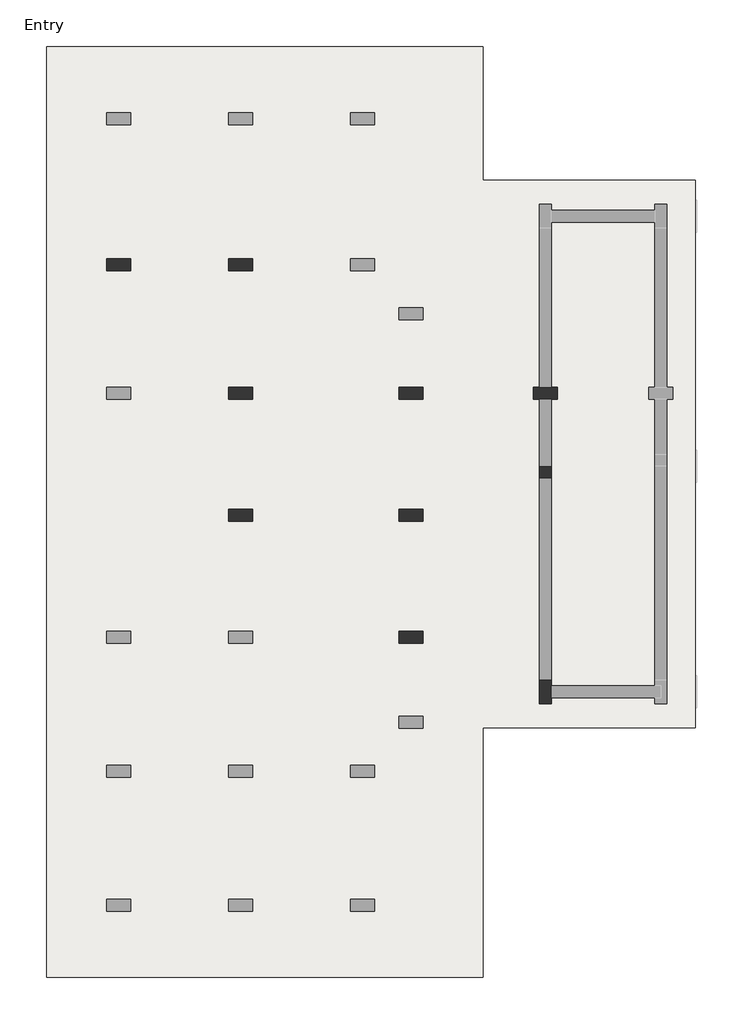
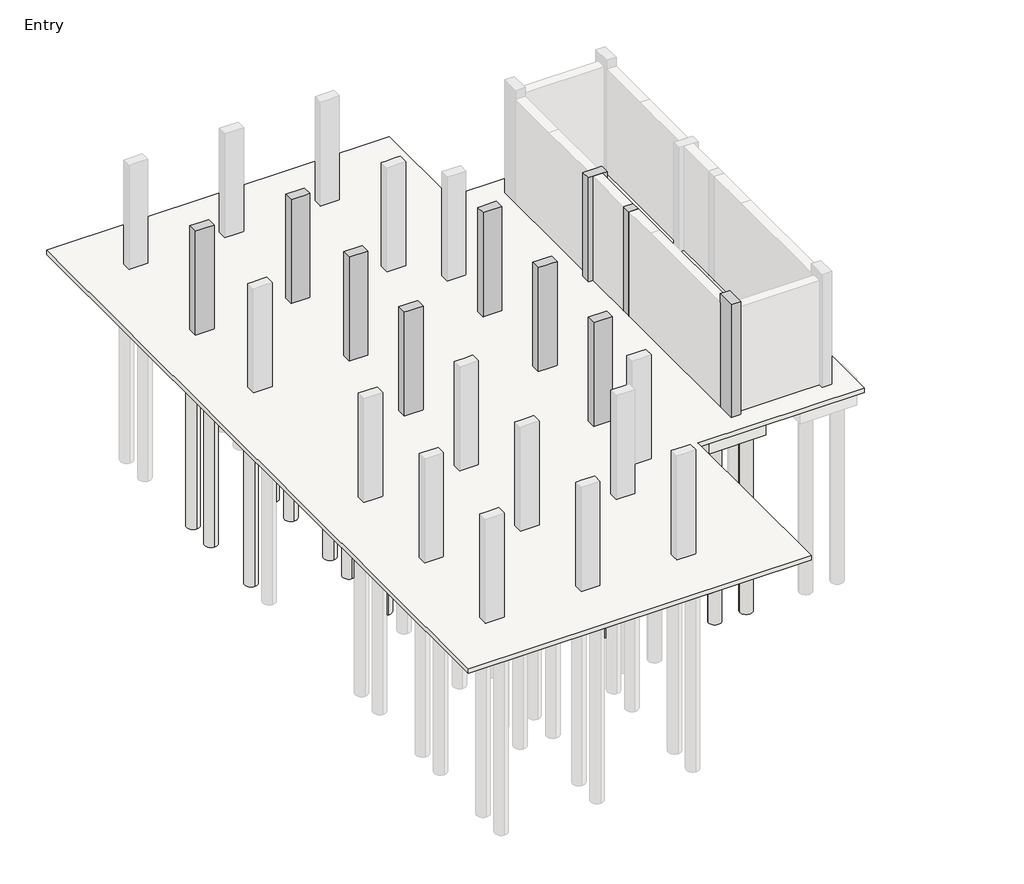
# One storey, part 2 of 3: 34 slabs, 10 columns, 3 footings.
"""IFC4 building model written with IfcOpenShell, lengths in millimetres."""

from ifc_helpers import new_model, si_unit, point, frame, frame_2d, origin, origin_with_axes, place, context, project, spatial, polyline, circle_curve, trimmed, segment, composite_curve, outline, extrude, faceted_brep, element, save

model = new_model("IFC4")

# Units and contexts
model_context = context("Model", 3, world=origin())
ifc_project = project(units=[si_unit("LENGTHUNIT", "METRE", prefix="MILLI")], contexts=[model_context])

# Site, building, storey
site = spatial("IfcSite", under=ifc_project)
building = spatial("IfcBuilding", under=site)
storey = spatial("IfcBuildingStorey", under=building, Name="Entry", Elevation=0.0)

# Columns
placement = place(None, origin())
element("IfcColumn", 1, ObjectType="M_Concrete-Rectangular-Column : 300 x 600mm", at=placement, inside=storey, context=model_context, shape_type="Brep", body=[
    faceted_brep([(-13131.3472303, 11219.016665, 0.0), (-12531.3472303, 11219.016665, 0.0), (-12531.3472303, 10919.016665, 0.0), (-13131.3472303, 10919.016665, 0.0), (-13131.3472303, 11219.016665, 3505.2), (-12981.3472303, 11219.016665, 3505.2), (-12681.3472303, 11219.016665, 3505.2), (-12531.3472303, 11219.016665, 3505.2), (-12531.3472303, 11219.016665, 2910.0), (-12531.3472303, 10919.016665, 3505.2), (-12531.3472303, 10919.016665, 2910.0), (-12831.3472303, 10919.016665, 3505.2), (-12981.3472303, 10919.016665, 3505.2), (-13131.3472303, 10919.016665, 3505.2)], [[[0, 1, 2, 3]], [[4, 5, 6, 7, 8, 1, 0]], [[7, 9, 10, 2, 1, 8]], [[9, 11, 12, 13, 3, 2, 10]], [[13, 4, 0, 3]], [[4, 13, 12, 11, 9, 7, 6, 5]]]),
])
element("IfcColumn", 2, ObjectType="M_Concrete-Rectangular-Column : 300 x 600mm", at=placement, inside=storey, context=model_context, shape_type="Brep", body=[
    faceted_brep([(-10083.3472303, 11219.016665, 0.0), (-9483.3472303, 11219.016665, 0.0), (-9483.3472303, 10919.016665, 0.0), (-10083.3472303, 10919.016665, 0.0), (-10083.3472303, 11219.016665, 3505.2), (-9933.3472303, 11219.016665, 3505.2), (-9783.3472303, 11219.016665, 3505.2), (-9483.3472303, 11219.016665, 3505.2), (-9483.3472303, 11219.016665, 2910.0), (-10083.3472303, 11219.016665, 2910.0), (-9483.3472303, 10919.016665, 3505.2), (-9483.3472303, 10919.016665, 2910.0), (-9633.3472303, 10919.016665, 3505.2), (-9933.3472303, 10919.016665, 3505.2), (-10083.3472303, 10919.016665, 3505.2), (-10083.3472303, 10919.016665, 2910.0)], [[[0, 1, 2, 3]], [[4, 5, 6, 7, 8, 1, 0, 9]], [[7, 10, 11, 2, 1, 8]], [[10, 12, 13, 14, 15, 3, 2, 11]], [[14, 4, 9, 0, 3, 15]], [[4, 14, 13, 12, 10, 7, 6, 5]]]),
])
element("IfcColumn", 3, ObjectType="M_Concrete-Rectangular-Column : 300 x 600mm", at=placement, inside=storey, context=model_context, shape_type="Brep", body=[
    faceted_brep([(-10083.3472303, 8019.016665, 0.0), (-9483.3472303, 8019.016665, 0.0), (-9483.3472303, 7719.016665, 0.0), (-10083.3472303, 7719.016665, 0.0), (-10083.3472303, 8019.016665, 3505.2), (-9933.3472303, 8019.016665, 3505.2), (-9783.3472303, 8019.016665, 3505.2), (-9483.3472303, 8019.016665, 3505.2), (-9483.3472303, 8019.016665, 2910.0), (-10083.3472303, 8019.016665, 2910.0), (-9483.3472303, 7719.016665, 3505.2), (-9483.3472303, 7719.016665, 2910.0), (-9633.3472303, 7719.016665, 3505.2), (-9933.3472303, 7719.016665, 3505.2), (-10083.3472303, 7719.016665, 3505.2), (-10083.3472303, 7719.016665, 2910.0)], [[[0, 1, 2, 3]], [[4, 5, 6, 7, 8, 1, 0, 9]], [[7, 10, 11, 2, 1, 8]], [[10, 12, 13, 14, 15, 3, 2, 11]], [[14, 4, 9, 0, 3, 15]], [[4, 14, 13, 12, 10, 7, 6, 5]]]),
])
element("IfcColumn", 4, ObjectType="M_Concrete-Rectangular-Column : 300 x 600mm", at=placement, inside=storey, context=model_context, shape_type="Brep", body=[
    faceted_brep([(-5816.3472303, 8019.016665, 0.0), (-5216.3472303, 8019.016665, 0.0), (-5216.3472303, 7719.016665, 0.0), (-5816.3472303, 7719.016665, 0.0), (-5816.3472303, 8019.016665, 3505.2), (-5666.3472303, 8019.016665, 3505.2), (-5366.3472303, 8019.016665, 3505.2), (-5216.3472303, 8019.016665, 3505.2), (-5216.3472303, 8019.016665, 2910.0), (-5816.3472303, 8019.016665, 2910.0), (-5216.3472303, 7719.016665, 3505.2), (-5216.3472303, 7719.016665, 2910.0), (-5366.3472303, 7719.016665, 3505.2), (-5516.3472303, 7719.016665, 3505.2), (-5816.3472303, 7719.016665, 3505.2), (-5816.3472303, 7719.016665, 2910.0)], [[[0, 1, 2, 3]], [[4, 5, 6, 7, 8, 1, 0, 9]], [[7, 10, 11, 2, 1, 8]], [[10, 12, 13, 14, 15, 3, 2, 11]], [[14, 4, 9, 0, 3, 15]], [[4, 14, 13, 12, 10, 7, 6, 5]]]),
])
element("IfcColumn", 5, ObjectType="M_Concrete-Rectangular-Column : 300 x 600mm", at=placement, inside=storey, context=model_context, shape_type="Brep", body=[
    faceted_brep([(-2463.3472303, 8019.016665, 0.0), (-2313.3472303, 8019.016665, 0.0), (-2013.3472303, 8019.016665, 0.0), (-1863.3472303, 8019.016665, 0.0), (-1863.3472303, 7719.016665, 0.0), (-2013.3472303, 7719.016665, 0.0), (-2313.3472303, 7719.016665, 0.0), (-2463.3472303, 7719.016665, 0.0), (-2463.3472303, 8019.016665, 3510.0), (-2313.3472303, 8019.016665, 3510.0), (-2013.3472303, 8019.016665, 3510.0), (-1863.3472303, 8019.016665, 3510.0), (-1863.3472303, 7719.016665, 3510.0), (-2013.3472303, 7719.016665, 3510.0), (-2313.3472303, 7719.016665, 3510.0), (-2463.3472303, 7719.016665, 3510.0)], [[[0, 1, 2, 3, 4, 5, 6, 7]], [[3, 2, 1, 0, 8, 9, 10, 11]], [[4, 3, 11, 12]], [[7, 6, 5, 4, 12, 13, 14, 15]], [[0, 7, 15, 8]], [[11, 10, 9, 8, 15, 14, 13, 12]]]),
])
element("IfcColumn", 6, ObjectType="M_Concrete-Rectangular-Column : 300 x 600mm", at=placement, inside=storey, context=model_context, shape_type="Brep", body=[
    faceted_brep([(-10083.3472303, 4971.016665, 0.0), (-9483.3472303, 4971.016665, 0.0), (-9483.3472303, 4671.016665, 0.0), (-10083.3472303, 4671.016665, 0.0), (-10083.3472303, 4971.016665, 3505.2), (-9933.3472303, 4971.016665, 3505.2), (-9783.3472303, 4971.016665, 3505.2), (-9483.3472303, 4971.016665, 3505.2), (-9483.3472303, 4971.016665, 2910.0), (-9483.3472303, 4671.016665, 3505.2), (-9483.3472303, 4671.016665, 2910.0), (-9783.3472303, 4671.016665, 3505.2), (-9933.3472303, 4671.016665, 3505.2), (-10083.3472303, 4671.016665, 3505.2)], [[[0, 1, 2, 3]], [[4, 5, 6, 7, 8, 1, 0]], [[7, 9, 10, 2, 1, 8]], [[9, 11, 12, 13, 3, 2, 10]], [[13, 4, 0, 3]], [[4, 13, 12, 11, 9, 7, 6, 5]]]),
])
element("IfcColumn", 7, ObjectType="M_Concrete-Rectangular-Column : 300 x 600mm", at=placement, inside=storey, context=model_context, shape_type="Brep", body=[
    faceted_brep([(-5816.3472303, 4971.016665, 0.0), (-5216.3472303, 4971.016665, 0.0), (-5216.3472303, 4671.016665, 0.0), (-5816.3472303, 4671.016665, 0.0), (-5816.3472303, 4971.016665, 3505.2), (-5666.3472303, 4971.016665, 3505.2), (-5366.3472303, 4971.016665, 3505.2), (-5216.3472303, 4971.016665, 3505.2), (-5216.3472303, 4971.016665, 2910.0), (-5816.3472303, 4971.016665, 2910.0), (-5216.3472303, 4671.016665, 3505.2), (-5216.3472303, 4671.016665, 2910.0), (-5366.3472303, 4671.016665, 3505.2), (-5516.3472303, 4671.016665, 3505.2), (-5816.3472303, 4671.016665, 3505.2), (-5816.3472303, 4671.016665, 2910.0)], [[[0, 1, 2, 3]], [[4, 5, 6, 7, 8, 1, 0, 9]], [[7, 10, 11, 2, 1, 8]], [[10, 12, 13, 14, 15, 3, 2, 11]], [[14, 4, 9, 0, 3, 15]], [[4, 14, 13, 12, 10, 7, 6, 5]]]),
])
element("IfcColumn", 8, ObjectType="M_Concrete-Rectangular-Column : 300 x 600mm", at=placement, inside=storey, context=model_context, shape_type="Brep", body=[
    faceted_brep([(-5816.3472303, 1923.016665, 0.0), (-5216.3472303, 1923.016665, 0.0), (-5216.3472303, 1623.016665, 0.0), (-5816.3472303, 1623.016665, 0.0), (-5816.3472303, 1923.016665, 3505.2), (-5666.3472303, 1923.016665, 3505.2), (-5366.3472303, 1923.016665, 3505.2), (-5216.3472303, 1923.016665, 3505.2), (-5816.3472303, 1923.016665, 2910.0), (-5216.3472303, 1623.016665, 3505.2), (-5366.3472303, 1623.016665, 3505.2), (-5516.3472303, 1623.016665, 3505.2), (-5816.3472303, 1623.016665, 3505.2), (-5816.3472303, 1623.016665, 2910.0)], [[[0, 1, 2, 3]], [[4, 5, 6, 7, 1, 0, 8]], [[7, 9, 2, 1]], [[9, 10, 11, 12, 13, 3, 2]], [[12, 4, 8, 0, 3, 13]], [[4, 12, 11, 10, 9, 7, 6, 5]]]),
])
element("IfcColumn", 9, ObjectType="M_Concrete-Rectangular-Column : 300 x 600mm", at=placement, inside=storey, context=model_context, shape_type="Brep", body=[
    faceted_brep([(-2313.3472303, 101.016665, 0.0), (-2313.3472303, 701.016665, 0.0), (-2013.3472303, 701.016665, 0.0), (-2013.3472303, 551.016665, 0.0), (-2013.3472303, 251.016665, 0.0), (-2013.3472303, 101.016665, 0.0), (-2313.3472303, 101.016665, 3810.0), (-2313.3472303, 701.016665, 3810.0), (-2313.3472303, 701.016665, 3510.0), (-2013.3472303, 701.016665, 3810.0), (-2013.3472303, 701.016665, 3510.0), (-2013.3472303, 101.016665, 3810.0)], [[[0, 1, 2, 3, 4, 5]], [[6, 7, 8, 1, 0]], [[7, 9, 10, 2, 1, 8]], [[9, 11, 5, 4, 3, 2, 10]], [[11, 6, 0, 5]], [[6, 11, 9, 7]]]),
])
element("IfcColumn", 10, ObjectType="M_Concrete-Rectangular-Column : 300 x 600mm", at=placement, inside=storey, context=model_context, shape_type="SweptSolid", body=[
    extrude(outline(polyline([(-2013.3472303, 5740.016665), (-2313.3472303, 5740.016665), (-2313.3472303, 6040.016665), (-2013.3472303, 6040.016665), (-2013.3472303, 5740.016665)])), origin_with_axes(), (0.0, 0.0, 1.0), 3510.0),
])

# Footings
element("IfcFooting", 11, ObjectType="Bearing Footing - 900 x 300", at=placement, inside=storey, context=model_context, shape_type="Brep", body=[
    faceted_brep([(732.6527697, -48.983335, -300.0), (732.6527697, 1.016665, -300.0), (732.6527697, 1.016665, -150.0), (732.6527697, -48.983335, -150.0), (-2013.3472303, 1.016665, -300.0), (-2013.3472303, -48.983335, -300.0), (-2013.3472303, -48.983335, -150.0), (-2013.3472303, 1.016665, -150.0), (-2013.3472303, 851.016665, -300.0), (-2013.3472303, 801.016665, -300.0), (-2013.3472303, 801.016665, -150.0), (-2013.3472303, 851.016665, -150.0), (-1263.3472303, 1.016665, -300.0), (-1263.3472303, 801.016665, -300.0), (-1713.3472303, 851.016665, -300.0), (282.6527697, 851.016665, -300.0), (282.6527697, 801.016665, -300.0), (-167.3472303, 801.016665, -300.0), (-167.3472303, 1.016665, -300.0), (-1713.3472303, 851.016665, -150.0), (282.6527697, 851.016665, -150.0), (-1263.3472303, 1.016665, -150.0), (-1263.3472303, 801.016665, -150.0), (-167.3472303, 1.016665, -150.0), (282.6527697, 801.016665, -150.0), (-167.3472303, 801.016665, -150.0)], [[[0, 1, 2, 3]], [[4, 5, 6, 7]], [[8, 9, 10, 11]], [[5, 0, 3, 6]], [[0, 5, 4, 12, 13, 9, 8, 14, 15, 16, 17, 18, 1]], [[15, 14, 8, 11, 19, 20]], [[12, 4, 7, 21]], [[13, 12, 21, 22]], [[9, 13, 22, 10]], [[1, 18, 23, 2]], [[17, 16, 24, 25]], [[18, 17, 25, 23]], [[16, 15, 20, 24]], [[3, 2, 23, 25, 24, 20, 19, 11, 10, 22, 21, 7, 6]]]),
])
element("IfcFooting", 12, ObjectType="Bearing Footing - 900 x 300", at=placement, inside=storey, context=model_context, shape_type="SweptSolid", body=[
    extrude(outline(polyline([(-2613.3472303, 5640.016665), (-1713.3472303, 5640.016665), (-1713.3472303, 851.016665), (-2013.3472303, 851.016665), (-2013.3472303, 801.016665), (-2613.3472303, 801.016665), (-2613.3472303, 5640.016665)])), frame((0.0, 0.0, -300.0), z_axis=(0.0, 0.0, 1.0), x_axis=(1.0, 0.0, 0.0)), (0.0, 0.0, 1.0), 150.0),
])
element("IfcFooting", 13, ObjectType="Bearing Footing - 900 x 300", at=placement, inside=storey, context=model_context, shape_type="SweptSolid", body=[
    extrude(outline(polyline([(-2613.3472303, 7719.016665), (-2563.3472303, 7719.016665), (-2563.3472303, 6969.016665), (-1763.3472303, 6969.016665), (-1763.3472303, 7719.016665), (-1713.3472303, 7719.016665), (-1713.3472303, 6440.016665), (-2613.3472303, 6440.016665), (-2613.3472303, 7719.016665)])), frame((0.0, 0.0, -300.0), z_axis=(0.0, 0.0, 1.0), x_axis=(1.0, 0.0, 0.0)), (0.0, 0.0, 1.0), 150.0),
])

# Slabs
element("IfcSlab", 14, ObjectType="150mm Foundation Slab", at=placement, inside=storey, context=model_context, shape_type="Brep", body=[
    faceted_brep([(-3716.3472303, 16526.016665, -150.0), (-3716.3472303, 13188.016665, -150.0), (1583.6527697, 13188.016665, -150.0), (1583.6527697, 12688.016665, -150.0), (1583.6527697, 11888.016665, -150.0), (1583.6527697, 6440.016665, -150.0), (1583.6527697, 5640.016665, -150.0), (1583.6527697, 801.016665, -150.0), (1583.6527697, 1.016665, -150.0), (1583.6527697, -498.983335, -150.0), (-3716.3472303, -498.983335, -150.0), (-3716.3472303, -6732.983335, -150.0), (-14631.3472303, -6732.983335, -150.0), (-14631.3472303, 16526.016665, -150.0), (-3716.3472303, 16526.016665, 0.0), (-14631.3472303, 16526.016665, 0.0), (-14631.3472303, -6732.983335, 0.0), (-3716.3472303, -6732.983335, 0.0), (-3716.3472303, -498.983335, 0.0), (1583.6527697, -498.983335, 0.0), (1583.6527697, 1.016665, 0.0), (1583.6527697, 801.016665, 0.0), (1583.6527697, 5640.016665, 0.0), (1583.6527697, 6440.016665, 0.0), (1583.6527697, 11888.016665, 0.0), (1583.6527697, 12688.016665, 0.0), (1583.6527697, 13188.016665, 0.0), (-3716.3472303, 13188.016665, 0.0)], [[[0, 1, 2, 3, 4, 5, 6, 7, 8, 9, 10, 11, 12, 13]], [[14, 15, 16, 17, 18, 19, 20, 21, 22, 23, 24, 25, 26, 27]], [[1, 0, 14, 27]], [[2, 1, 27, 26]], [[9, 8, 7, 6, 5, 4, 3, 2, 26, 25, 24, 23, 22, 21, 20, 19]], [[10, 9, 19, 18]], [[11, 10, 18, 17]], [[12, 11, 17, 16]], [[13, 12, 16, 15]], [[0, 13, 15, 14]]]),
])
element("IfcSlab", 15, ObjectType="M_Pile Cap-2 Pile : 800 x 1500 x 900", at=placement, inside=storey, context=model_context, shape_type="SweptSolid", body=[
    extrude(outline(polyline([(-13231.3472303, 11969.016665), (-12431.3472303, 11969.016665), (-12431.3472303, 10169.016665), (-13231.3472303, 10169.016665), (-13231.3472303, 11969.016665)])), frame((0.0, 0.0, -900.0), z_axis=(0.0, 0.0, 1.0), x_axis=(1.0, 0.0, 0.0)), (0.0, 0.0, 1.0), 750.0),
])
element("IfcSlab", 16, ObjectType="M_Pile Cap-2 Pile : 800 x 1500 x 900", at=placement, inside=storey, context=model_context, shape_type="Brep", body=[
    faceted_brep([(-2563.3472303, 8769.016665, -900.0), (-1763.3472303, 8769.016665, -900.0), (-1763.3472303, 6969.016665, -900.0), (-2563.3472303, 6969.016665, -900.0), (-2563.3472303, 6969.016665, -300.0), (-2563.3472303, 6969.016665, -150.0), (-2563.3472303, 7719.016665, -150.0), (-2563.3472303, 8019.016665, -150.0), (-2563.3472303, 8769.016665, -150.0), (-2563.3472303, 8769.016665, -300.0), (-1763.3472303, 6969.016665, -300.0), (-1763.3472303, 6969.016665, -150.0), (-1763.3472303, 8769.016665, -300.0), (-1763.3472303, 8769.016665, -150.0), (-1763.3472303, 8019.016665, -150.0), (-1763.3472303, 7719.016665, -150.0)], [[[0, 1, 2, 3]], [[0, 3, 4, 5, 6, 7, 8, 9]], [[3, 2, 10, 11, 5, 4]], [[2, 1, 12, 13, 14, 15, 11, 10]], [[1, 0, 9, 8, 13, 12]], [[8, 7, 6, 5, 11, 15, 14, 13]]]),
])
element("IfcSlab", 17, ObjectType="M_Pile Cap-2 Pile : 800 x 1500 x 900", at=placement, inside=storey, context=model_context, shape_type="Brep", body=[
    faceted_brep([(-3063.3472303, 5640.016665, -900.0), (-3063.3472303, 6440.016665, -900.0), (-1263.3472303, 6440.016665, -900.0), (-1263.3472303, 5640.016665, -900.0), (-1263.3472303, 5640.016665, -150.0), (-1713.3472303, 5640.016665, -150.0), (-2613.3472303, 5640.016665, -150.0), (-3063.3472303, 5640.016665, -150.0), (-1263.3472303, 6440.016665, -150.0), (-3063.3472303, 6440.016665, -150.0), (-2613.3472303, 6440.016665, -150.0), (-1713.3472303, 6440.016665, -150.0)], [[[0, 1, 2, 3]], [[0, 3, 4, 5, 6, 7]], [[3, 2, 8, 4]], [[2, 1, 9, 10, 11, 8]], [[1, 0, 7, 9]], [[7, 6, 5, 4, 8, 11, 10, 9]]]),
])
element("IfcSlab", 18, ObjectType="M_Pile Cap-2 Pile : 800 x 1500 x 900", at=placement, inside=storey, context=model_context, shape_type="Brep", body=[
    faceted_brep([(-3063.3472303, 1.016665, -900.0), (-3063.3472303, 801.016665, -900.0), (-1263.3472303, 801.016665, -900.0), (-1263.3472303, 1.016665, -900.0), (-1263.3472303, 1.016665, -300.0), (-1263.3472303, 1.016665, -150.0), (-2013.3472303, 1.016665, -150.0), (-3063.3472303, 1.016665, -150.0), (-1263.3472303, 801.016665, -300.0), (-1263.3472303, 801.016665, -150.0), (-3063.3472303, 801.016665, -150.0), (-2613.3472303, 801.016665, -150.0), (-2013.3472303, 801.016665, -150.0)], [[[0, 1, 2, 3]], [[0, 3, 4, 5, 6, 7]], [[3, 2, 8, 9, 5, 4]], [[2, 1, 10, 11, 12, 9, 8]], [[1, 0, 7, 10]], [[7, 6, 5, 9, 12, 11, 10]]]),
])
element("IfcSlab", 19, ObjectType="M_Pile Cap-2 Pile : 800 x 1500 x 900", at=placement, inside=storey, context=model_context, shape_type="SweptSolid", body=[
    extrude(outline(polyline([(-5916.3472303, 2673.016665), (-5116.3472303, 2673.016665), (-5116.3472303, 873.016665), (-5916.3472303, 873.016665), (-5916.3472303, 2673.016665)])), frame((0.0, 0.0, -900.0), z_axis=(0.0, 0.0, 1.0), x_axis=(1.0, 0.0, 0.0)), (0.0, 0.0, 1.0), 750.0),
])
element("IfcSlab", 20, ObjectType="M_Pile Cap-2 Pile : 800 x 1500 x 900", at=placement, inside=storey, context=model_context, shape_type="SweptSolid", body=[
    extrude(outline(polyline([(-5916.3472303, 5721.016665), (-5116.3472303, 5721.016665), (-5116.3472303, 3921.016665), (-5916.3472303, 3921.016665), (-5916.3472303, 5721.016665)])), frame((0.0, 0.0, -900.0), z_axis=(0.0, 0.0, 1.0), x_axis=(1.0, 0.0, 0.0)), (0.0, 0.0, 1.0), 750.0),
])
element("IfcSlab", 21, ObjectType="M_Pile Cap-2 Pile : 800 x 1500 x 900", at=placement, inside=storey, context=model_context, shape_type="SweptSolid", body=[
    extrude(outline(polyline([(-5916.3472303, 8769.016665), (-5116.3472303, 8769.016665), (-5116.3472303, 6969.016665), (-5916.3472303, 6969.016665), (-5916.3472303, 8769.016665)])), frame((0.0, 0.0, -900.0), z_axis=(0.0, 0.0, 1.0), x_axis=(1.0, 0.0, 0.0)), (0.0, 0.0, 1.0), 750.0),
])
element("IfcSlab", 22, ObjectType="M_Pile Cap-4 Pile : 1800 x 1800 x 900", at=placement, inside=storey, context=model_context, shape_type="SweptSolid", body=[
    extrude(outline(polyline([(-10683.3472303, 11969.016665), (-8883.3472303, 11969.016665), (-8883.3472303, 10169.016665), (-10683.3472303, 10169.016665), (-10683.3472303, 11969.016665)])), frame((0.0, 0.0, -900.0), z_axis=(0.0, 0.0, 1.0), x_axis=(1.0, 0.0, 0.0)), (0.0, 0.0, 1.0), 750.0),
])
element("IfcSlab", 23, ObjectType="M_Pile Cap-4 Pile : 1800 x 1800 x 900", at=placement, inside=storey, context=model_context, shape_type="SweptSolid", body=[
    extrude(outline(polyline([(-10683.3472303, 8769.016665), (-8883.3472303, 8769.016665), (-8883.3472303, 6969.016665), (-10683.3472303, 6969.016665), (-10683.3472303, 8769.016665)])), frame((0.0, 0.0, -900.0), z_axis=(0.0, 0.0, 1.0), x_axis=(1.0, 0.0, 0.0)), (0.0, 0.0, 1.0), 750.0),
])
element("IfcSlab", 24, ObjectType="M_Pile Cap-4 Pile : 1800 x 1800 x 900", at=placement, inside=storey, context=model_context, shape_type="SweptSolid", body=[
    extrude(outline(polyline([(-10683.3472303, 5721.016665), (-8883.3472303, 5721.016665), (-8883.3472303, 3921.016665), (-10683.3472303, 3921.016665), (-10683.3472303, 5721.016665)])), frame((0.0, 0.0, -900.0), z_axis=(0.0, 0.0, 1.0), x_axis=(1.0, 0.0, 0.0)), (0.0, 0.0, 1.0), 750.0),
])
element("IfcSlab", 25, ObjectType="M_Pile-Steel Pipe : 400mm Diameter", at=placement, inside=storey, context=model_context, shape_type="SweptSolid", body=[
    extrude(outline(composite_curve([segment(trimmed(circle_curve(frame_2d((-9263.3472303, 10549.016665)), 200.0), [point((-9263.3472303, 10349.016665))], [point((-9263.3472303, 10749.016665))], False, "CARTESIAN"), True, "CONTINUOUS"), segment(trimmed(circle_curve(frame_2d((-9263.3472303, 10549.016665)), 200.0), [point((-9263.3472303, 10749.016665))], [point((-9263.3472303, 10349.016665))], False, "CARTESIAN"), True, "CONTINUOUS")], self_intersect=False)), frame((0.0, 0.0, -6900.0), z_axis=(0.0, 0.0, 1.0), x_axis=(1.0, 0.0, 0.0)), (0.0, 0.0, 1.0), 6000.0),
])
element("IfcSlab", 26, ObjectType="M_Pile-Steel Pipe : 400mm Diameter", at=placement, inside=storey, context=model_context, shape_type="SweptSolid", body=[
    extrude(outline(composite_curve([segment(trimmed(circle_curve(frame_2d((-10303.3472303, 11589.016665)), 200.0), [point((-10303.3472303, 11389.016665))], [point((-10303.3472303, 11789.016665))], False, "CARTESIAN"), True, "CONTINUOUS"), segment(trimmed(circle_curve(frame_2d((-10303.3472303, 11589.016665)), 200.0), [point((-10303.3472303, 11789.016665))], [point((-10303.3472303, 11389.016665))], False, "CARTESIAN"), True, "CONTINUOUS")], self_intersect=False)), frame((0.0, 0.0, -6900.0), z_axis=(0.0, 0.0, 1.0), x_axis=(1.0, 0.0, 0.0)), (0.0, 0.0, 1.0), 6000.0),
])
element("IfcSlab", 27, ObjectType="M_Pile-Steel Pipe : 400mm Diameter", at=placement, inside=storey, context=model_context, shape_type="SweptSolid", body=[
    extrude(outline(composite_curve([segment(trimmed(circle_curve(frame_2d((-10303.3472303, 10549.016665)), 200.0), [point((-10303.3472303, 10349.016665))], [point((-10303.3472303, 10749.016665))], False, "CARTESIAN"), True, "CONTINUOUS"), segment(trimmed(circle_curve(frame_2d((-10303.3472303, 10549.016665)), 200.0), [point((-10303.3472303, 10749.016665))], [point((-10303.3472303, 10349.016665))], False, "CARTESIAN"), True, "CONTINUOUS")], self_intersect=False)), frame((0.0, 0.0, -6900.0), z_axis=(0.0, 0.0, 1.0), x_axis=(1.0, 0.0, 0.0)), (0.0, 0.0, 1.0), 6000.0),
])
element("IfcSlab", 28, ObjectType="M_Pile-Steel Pipe : 400mm Diameter", at=placement, inside=storey, context=model_context, shape_type="SweptSolid", body=[
    extrude(outline(composite_curve([segment(trimmed(circle_curve(frame_2d((-9263.3472303, 7349.016665)), 200.0), [point((-9263.3472303, 7149.016665))], [point((-9263.3472303, 7549.016665))], False, "CARTESIAN"), True, "CONTINUOUS"), segment(trimmed(circle_curve(frame_2d((-9263.3472303, 7349.016665)), 200.0), [point((-9263.3472303, 7549.016665))], [point((-9263.3472303, 7149.016665))], False, "CARTESIAN"), True, "CONTINUOUS")], self_intersect=False)), frame((0.0, 0.0, -6900.0), z_axis=(0.0, 0.0, 1.0), x_axis=(1.0, 0.0, 0.0)), (0.0, 0.0, 1.0), 6000.0),
])
element("IfcSlab", 29, ObjectType="M_Pile-Steel Pipe : 400mm Diameter", at=placement, inside=storey, context=model_context, shape_type="SweptSolid", body=[
    extrude(outline(composite_curve([segment(trimmed(circle_curve(frame_2d((-9263.3472303, 8389.016665)), 200.0), [point((-9263.3472303, 8189.016665))], [point((-9263.3472303, 8589.016665))], False, "CARTESIAN"), True, "CONTINUOUS"), segment(trimmed(circle_curve(frame_2d((-9263.3472303, 8389.016665)), 200.0), [point((-9263.3472303, 8589.016665))], [point((-9263.3472303, 8189.016665))], False, "CARTESIAN"), True, "CONTINUOUS")], self_intersect=False)), frame((0.0, 0.0, -6900.0), z_axis=(0.0, 0.0, 1.0), x_axis=(1.0, 0.0, 0.0)), (0.0, 0.0, 1.0), 6000.0),
])
element("IfcSlab", 30, ObjectType="M_Pile-Steel Pipe : 400mm Diameter", at=placement, inside=storey, context=model_context, shape_type="SweptSolid", body=[
    extrude(outline(composite_curve([segment(trimmed(circle_curve(frame_2d((-10303.3472303, 8389.016665)), 200.0), [point((-10303.3472303, 8189.016665))], [point((-10303.3472303, 8589.016665))], False, "CARTESIAN"), True, "CONTINUOUS"), segment(trimmed(circle_curve(frame_2d((-10303.3472303, 8389.016665)), 200.0), [point((-10303.3472303, 8589.016665))], [point((-10303.3472303, 8189.016665))], False, "CARTESIAN"), True, "CONTINUOUS")], self_intersect=False)), frame((0.0, 0.0, -6900.0), z_axis=(0.0, 0.0, 1.0), x_axis=(1.0, 0.0, 0.0)), (0.0, 0.0, 1.0), 6000.0),
])
element("IfcSlab", 31, ObjectType="M_Pile-Steel Pipe : 400mm Diameter", at=placement, inside=storey, context=model_context, shape_type="SweptSolid", body=[
    extrude(outline(composite_curve([segment(trimmed(circle_curve(frame_2d((-10303.3472303, 7349.016665)), 200.0), [point((-10303.3472303, 7149.016665))], [point((-10303.3472303, 7549.016665))], False, "CARTESIAN"), True, "CONTINUOUS"), segment(trimmed(circle_curve(frame_2d((-10303.3472303, 7349.016665)), 200.0), [point((-10303.3472303, 7549.016665))], [point((-10303.3472303, 7149.016665))], False, "CARTESIAN"), True, "CONTINUOUS")], self_intersect=False)), frame((0.0, 0.0, -6900.0), z_axis=(0.0, 0.0, 1.0), x_axis=(1.0, 0.0, 0.0)), (0.0, 0.0, 1.0), 6000.0),
])
element("IfcSlab", 32, ObjectType="M_Pile-Steel Pipe : 400mm Diameter", at=placement, inside=storey, context=model_context, shape_type="SweptSolid", body=[
    extrude(outline(composite_curve([segment(trimmed(circle_curve(frame_2d((-9263.3472303, 4301.016665)), 200.0), [point((-9263.3472303, 4101.016665))], [point((-9263.3472303, 4501.016665))], False, "CARTESIAN"), True, "CONTINUOUS"), segment(trimmed(circle_curve(frame_2d((-9263.3472303, 4301.016665)), 200.0), [point((-9263.3472303, 4501.016665))], [point((-9263.3472303, 4101.016665))], False, "CARTESIAN"), True, "CONTINUOUS")], self_intersect=False)), frame((0.0, 0.0, -6900.0), z_axis=(0.0, 0.0, 1.0), x_axis=(1.0, 0.0, 0.0)), (0.0, 0.0, 1.0), 6000.0),
])
element("IfcSlab", 33, ObjectType="M_Pile-Steel Pipe : 400mm Diameter", at=placement, inside=storey, context=model_context, shape_type="SweptSolid", body=[
    extrude(outline(composite_curve([segment(trimmed(circle_curve(frame_2d((-9263.3472303, 5341.016665)), 200.0), [point((-9263.3472303, 5141.016665))], [point((-9263.3472303, 5541.016665))], False, "CARTESIAN"), True, "CONTINUOUS"), segment(trimmed(circle_curve(frame_2d((-9263.3472303, 5341.016665)), 200.0), [point((-9263.3472303, 5541.016665))], [point((-9263.3472303, 5141.016665))], False, "CARTESIAN"), True, "CONTINUOUS")], self_intersect=False)), frame((0.0, 0.0, -6900.0), z_axis=(0.0, 0.0, 1.0), x_axis=(1.0, 0.0, 0.0)), (0.0, 0.0, 1.0), 6000.0),
])
element("IfcSlab", 34, ObjectType="M_Pile-Steel Pipe : 400mm Diameter", at=placement, inside=storey, context=model_context, shape_type="SweptSolid", body=[
    extrude(outline(composite_curve([segment(trimmed(circle_curve(frame_2d((-10303.3472303, 5341.016665)), 200.0), [point((-10303.3472303, 5141.016665))], [point((-10303.3472303, 5541.016665))], False, "CARTESIAN"), True, "CONTINUOUS"), segment(trimmed(circle_curve(frame_2d((-10303.3472303, 5341.016665)), 200.0), [point((-10303.3472303, 5541.016665))], [point((-10303.3472303, 5141.016665))], False, "CARTESIAN"), True, "CONTINUOUS")], self_intersect=False)), frame((0.0, 0.0, -6900.0), z_axis=(0.0, 0.0, 1.0), x_axis=(1.0, 0.0, 0.0)), (0.0, 0.0, 1.0), 6000.0),
])
element("IfcSlab", 35, ObjectType="M_Pile-Steel Pipe : 400mm Diameter", at=placement, inside=storey, context=model_context, shape_type="SweptSolid", body=[
    extrude(outline(composite_curve([segment(trimmed(circle_curve(frame_2d((-12831.3472303, 10569.016665)), 200.0), [point((-12831.3472303, 10369.016665))], [point((-12831.3472303, 10769.016665))], False, "CARTESIAN"), True, "CONTINUOUS"), segment(trimmed(circle_curve(frame_2d((-12831.3472303, 10569.016665)), 200.0), [point((-12831.3472303, 10769.016665))], [point((-12831.3472303, 10369.016665))], False, "CARTESIAN"), True, "CONTINUOUS")], self_intersect=False)), frame((0.0, 0.0, -6900.0), z_axis=(0.0, 0.0, 1.0), x_axis=(1.0, 0.0, 0.0)), (0.0, 0.0, 1.0), 6000.0),
])
element("IfcSlab", 36, ObjectType="M_Pile-Steel Pipe : 400mm Diameter", at=placement, inside=storey, context=model_context, shape_type="SweptSolid", body=[
    extrude(outline(composite_curve([segment(trimmed(circle_curve(frame_2d((-12831.3472303, 11569.016665)), 200.0), [point((-12831.3472303, 11369.016665))], [point((-12831.3472303, 11769.016665))], False, "CARTESIAN"), True, "CONTINUOUS"), segment(trimmed(circle_curve(frame_2d((-12831.3472303, 11569.016665)), 200.0), [point((-12831.3472303, 11769.016665))], [point((-12831.3472303, 11369.016665))], False, "CARTESIAN"), True, "CONTINUOUS")], self_intersect=False)), frame((0.0, 0.0, -6900.0), z_axis=(0.0, 0.0, 1.0), x_axis=(1.0, 0.0, 0.0)), (0.0, 0.0, 1.0), 6000.0),
])
element("IfcSlab", 37, ObjectType="M_Pile-Steel Pipe : 400mm Diameter", at=placement, inside=storey, context=model_context, shape_type="SweptSolid", body=[
    extrude(outline(composite_curve([segment(trimmed(circle_curve(frame_2d((-2163.3472303, 7369.016665)), 200.0), [point((-2163.3472303, 7169.016665))], [point((-2163.3472303, 7569.016665))], False, "CARTESIAN"), True, "CONTINUOUS"), segment(trimmed(circle_curve(frame_2d((-2163.3472303, 7369.016665)), 200.0), [point((-2163.3472303, 7569.016665))], [point((-2163.3472303, 7169.016665))], False, "CARTESIAN"), True, "CONTINUOUS")], self_intersect=False)), frame((0.0, 0.0, -6900.0), z_axis=(0.0, 0.0, 1.0), x_axis=(1.0, 0.0, 0.0)), (0.0, 0.0, 1.0), 6000.0),
])
element("IfcSlab", 38, ObjectType="M_Pile-Steel Pipe : 400mm Diameter", at=placement, inside=storey, context=model_context, shape_type="SweptSolid", body=[
    extrude(outline(composite_curve([segment(trimmed(circle_curve(frame_2d((-1663.3472303, 6040.016665)), 200.0), [point((-1463.3472303, 6040.016665))], [point((-1863.3472303, 6040.016665))], False, "CARTESIAN"), True, "CONTINUOUS"), segment(trimmed(circle_curve(frame_2d((-1663.3472303, 6040.016665)), 200.0), [point((-1863.3472303, 6040.016665))], [point((-1463.3472303, 6040.016665))], False, "CARTESIAN"), True, "CONTINUOUS")], self_intersect=False)), frame((0.0, 0.0, -6900.0), z_axis=(0.0, 0.0, 1.0), x_axis=(1.0, 0.0, 0.0)), (0.0, 0.0, 1.0), 6000.0),
])
element("IfcSlab", 39, ObjectType="M_Pile-Steel Pipe : 400mm Diameter", at=placement, inside=storey, context=model_context, shape_type="SweptSolid", body=[
    extrude(outline(composite_curve([segment(trimmed(circle_curve(frame_2d((-2663.3472303, 6040.016665)), 200.0), [point((-2463.3472303, 6040.016665))], [point((-2863.3472303, 6040.016665))], False, "CARTESIAN"), True, "CONTINUOUS"), segment(trimmed(circle_curve(frame_2d((-2663.3472303, 6040.016665)), 200.0), [point((-2863.3472303, 6040.016665))], [point((-2463.3472303, 6040.016665))], False, "CARTESIAN"), True, "CONTINUOUS")], self_intersect=False)), frame((0.0, 0.0, -6900.0), z_axis=(0.0, 0.0, 1.0), x_axis=(1.0, 0.0, 0.0)), (0.0, 0.0, 1.0), 6000.0),
])
element("IfcSlab", 40, ObjectType="M_Pile-Steel Pipe : 400mm Diameter", at=placement, inside=storey, context=model_context, shape_type="SweptSolid", body=[
    extrude(outline(composite_curve([segment(trimmed(circle_curve(frame_2d((-1663.3472303, 401.016665)), 200.0), [point((-1463.3472303, 401.016665))], [point((-1863.3472303, 401.016665))], False, "CARTESIAN"), True, "CONTINUOUS"), segment(trimmed(circle_curve(frame_2d((-1663.3472303, 401.016665)), 200.0), [point((-1863.3472303, 401.016665))], [point((-1463.3472303, 401.016665))], False, "CARTESIAN"), True, "CONTINUOUS")], self_intersect=False)), frame((0.0, 0.0, -6900.0), z_axis=(0.0, 0.0, 1.0), x_axis=(1.0, 0.0, 0.0)), (0.0, 0.0, 1.0), 6000.0),
])
element("IfcSlab", 41, ObjectType="M_Pile-Steel Pipe : 400mm Diameter", at=placement, inside=storey, context=model_context, shape_type="SweptSolid", body=[
    extrude(outline(composite_curve([segment(trimmed(circle_curve(frame_2d((-2663.3472303, 401.016665)), 200.0), [point((-2463.3472303, 401.016665))], [point((-2863.3472303, 401.016665))], False, "CARTESIAN"), True, "CONTINUOUS"), segment(trimmed(circle_curve(frame_2d((-2663.3472303, 401.016665)), 200.0), [point((-2863.3472303, 401.016665))], [point((-2463.3472303, 401.016665))], False, "CARTESIAN"), True, "CONTINUOUS")], self_intersect=False)), frame((0.0, 0.0, -6900.0), z_axis=(0.0, 0.0, 1.0), x_axis=(1.0, 0.0, 0.0)), (0.0, 0.0, 1.0), 6000.0),
])
element("IfcSlab", 42, ObjectType="M_Pile-Steel Pipe : 400mm Diameter", at=placement, inside=storey, context=model_context, shape_type="SweptSolid", body=[
    extrude(outline(composite_curve([segment(trimmed(circle_curve(frame_2d((-5516.3472303, 1273.016665)), 200.0), [point((-5516.3472303, 1073.016665))], [point((-5516.3472303, 1473.016665))], False, "CARTESIAN"), True, "CONTINUOUS"), segment(trimmed(circle_curve(frame_2d((-5516.3472303, 1273.016665)), 200.0), [point((-5516.3472303, 1473.016665))], [point((-5516.3472303, 1073.016665))], False, "CARTESIAN"), True, "CONTINUOUS")], self_intersect=False)), frame((0.0, 0.0, -6900.0), z_axis=(0.0, 0.0, 1.0), x_axis=(1.0, 0.0, 0.0)), (0.0, 0.0, 1.0), 6000.0),
])
element("IfcSlab", 43, ObjectType="M_Pile-Steel Pipe : 400mm Diameter", at=placement, inside=storey, context=model_context, shape_type="SweptSolid", body=[
    extrude(outline(composite_curve([segment(trimmed(circle_curve(frame_2d((-5516.3472303, 2273.016665)), 200.0), [point((-5516.3472303, 2073.016665))], [point((-5516.3472303, 2473.016665))], False, "CARTESIAN"), True, "CONTINUOUS"), segment(trimmed(circle_curve(frame_2d((-5516.3472303, 2273.016665)), 200.0), [point((-5516.3472303, 2473.016665))], [point((-5516.3472303, 2073.016665))], False, "CARTESIAN"), True, "CONTINUOUS")], self_intersect=False)), frame((0.0, 0.0, -6900.0), z_axis=(0.0, 0.0, 1.0), x_axis=(1.0, 0.0, 0.0)), (0.0, 0.0, 1.0), 6000.0),
])
element("IfcSlab", 44, ObjectType="M_Pile-Steel Pipe : 400mm Diameter", at=placement, inside=storey, context=model_context, shape_type="SweptSolid", body=[
    extrude(outline(composite_curve([segment(trimmed(circle_curve(frame_2d((-5516.3472303, 4321.016665)), 200.0), [point((-5516.3472303, 4121.016665))], [point((-5516.3472303, 4521.016665))], False, "CARTESIAN"), True, "CONTINUOUS"), segment(trimmed(circle_curve(frame_2d((-5516.3472303, 4321.016665)), 200.0), [point((-5516.3472303, 4521.016665))], [point((-5516.3472303, 4121.016665))], False, "CARTESIAN"), True, "CONTINUOUS")], self_intersect=False)), frame((0.0, 0.0, -6900.0), z_axis=(0.0, 0.0, 1.0), x_axis=(1.0, 0.0, 0.0)), (0.0, 0.0, 1.0), 6000.0),
])
element("IfcSlab", 45, ObjectType="M_Pile-Steel Pipe : 400mm Diameter", at=placement, inside=storey, context=model_context, shape_type="SweptSolid", body=[
    extrude(outline(composite_curve([segment(trimmed(circle_curve(frame_2d((-5516.3472303, 5321.016665)), 200.0), [point((-5516.3472303, 5121.016665))], [point((-5516.3472303, 5521.016665))], False, "CARTESIAN"), True, "CONTINUOUS"), segment(trimmed(circle_curve(frame_2d((-5516.3472303, 5321.016665)), 200.0), [point((-5516.3472303, 5521.016665))], [point((-5516.3472303, 5121.016665))], False, "CARTESIAN"), True, "CONTINUOUS")], self_intersect=False)), frame((0.0, 0.0, -6900.0), z_axis=(0.0, 0.0, 1.0), x_axis=(1.0, 0.0, 0.0)), (0.0, 0.0, 1.0), 6000.0),
])
element("IfcSlab", 46, ObjectType="M_Pile-Steel Pipe : 400mm Diameter", at=placement, inside=storey, context=model_context, shape_type="SweptSolid", body=[
    extrude(outline(composite_curve([segment(trimmed(circle_curve(frame_2d((-5516.3472303, 7369.016665)), 200.0), [point((-5516.3472303, 7169.016665))], [point((-5516.3472303, 7569.016665))], False, "CARTESIAN"), True, "CONTINUOUS"), segment(trimmed(circle_curve(frame_2d((-5516.3472303, 7369.016665)), 200.0), [point((-5516.3472303, 7569.016665))], [point((-5516.3472303, 7169.016665))], False, "CARTESIAN"), True, "CONTINUOUS")], self_intersect=False)), frame((0.0, 0.0, -6900.0), z_axis=(0.0, 0.0, 1.0), x_axis=(1.0, 0.0, 0.0)), (0.0, 0.0, 1.0), 6000.0),
])
element("IfcSlab", 47, ObjectType="M_Pile-Steel Pipe : 400mm Diameter", at=placement, inside=storey, context=model_context, shape_type="SweptSolid", body=[
    extrude(outline(composite_curve([segment(trimmed(circle_curve(frame_2d((-12831.3472303, 8369.016665)), 200.0), [point((-12831.3472303, 8169.016665))], [point((-12831.3472303, 8569.016665))], False, "CARTESIAN"), True, "CONTINUOUS"), segment(trimmed(circle_curve(frame_2d((-12831.3472303, 8369.016665)), 200.0), [point((-12831.3472303, 8569.016665))], [point((-12831.3472303, 8169.016665))], False, "CARTESIAN"), True, "CONTINUOUS")], self_intersect=False)), frame((0.0, 0.0, -6900.0), z_axis=(0.0, 0.0, 1.0), x_axis=(1.0, 0.0, 0.0)), (0.0, 0.0, 1.0), 6000.0),
])

save(model, "model.ifc")
